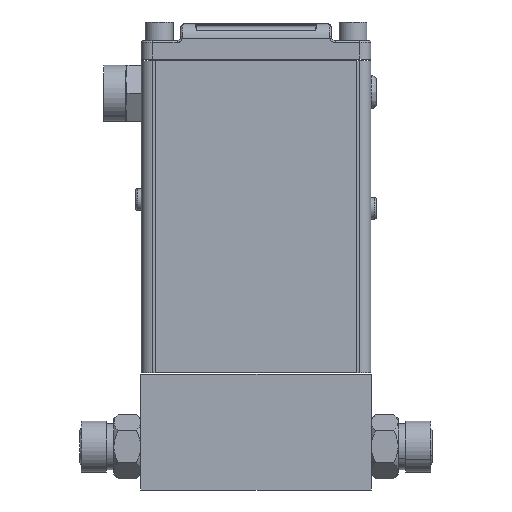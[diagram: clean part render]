
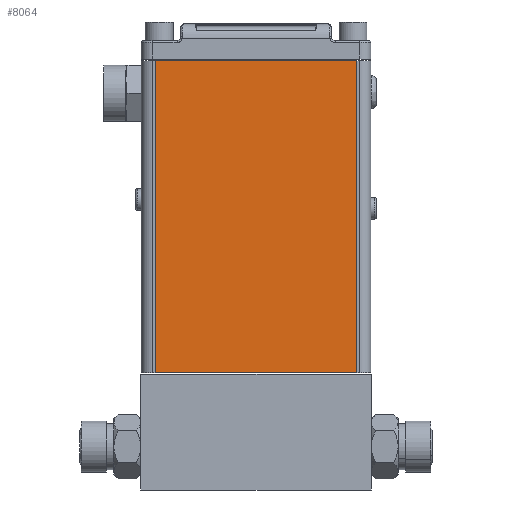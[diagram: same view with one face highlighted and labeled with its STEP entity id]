
A CAD part, front view. The second image highlights one B-rep face of the part: STEP entity #8064.
In plain terms, the highlighted planar face has unit normal (0, -1, 0).
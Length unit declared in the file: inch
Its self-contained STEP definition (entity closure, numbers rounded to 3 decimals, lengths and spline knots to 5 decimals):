
#113 = VERTEX_POINT ( 'NONE', #13328 ) ;
#154 = LINE ( 'NONE', #1653, #15160 ) ;
#642 = LINE ( 'NONE', #13596, #13643 ) ;
#1034 = PLANE ( 'NONE',  #13864 ) ;
#1347 = VECTOR ( 'NONE', #11546, 39.37008 ) ;
#1653 = CARTESIAN_POINT ( 'NONE',  ( 2.97328, -0.24061, 6.28514 ) ) ;
#3364 = EDGE_LOOP ( 'NONE', ( #9428, #15471, #9131, #4278 ) ) ;
#3407 = CARTESIAN_POINT ( 'NONE',  ( -0.41972, -0.24061, 6.28514 ) ) ;
#3513 = DIRECTION ( 'NONE',  ( 0., 1., 0. ) ) ;
#4278 = ORIENTED_EDGE ( 'NONE', *, *, #15330, .F. ) ;
#4745 = DIRECTION ( 'NONE',  ( 0., 0., 1. ) ) ;
#5468 = VERTEX_POINT ( 'NONE', #5855 ) ;
#5855 = CARTESIAN_POINT ( 'NONE',  ( -0.41972, -0.24061, 6.28514 ) ) ;
#6709 = CARTESIAN_POINT ( 'NONE',  ( 2.97328, -0.24061, 6.28514 ) ) ;
#7170 = VERTEX_POINT ( 'NONE', #12314 ) ;
#7501 = EDGE_CURVE ( 'NONE', #8729, #7170, #154, .T. ) ;
#8064 = ADVANCED_FACE ( 'NONE', ( #10768 ), #1034, .F. ) ;
#8482 = LINE ( 'NONE', #8520, #12486 ) ;
#8520 = CARTESIAN_POINT ( 'NONE',  ( -0.41972, -0.24061, 1.03514 ) ) ;
#8729 = VERTEX_POINT ( 'NONE', #6709 ) ;
#9131 = ORIENTED_EDGE ( 'NONE', *, *, #10081, .F. ) ;
#9428 = ORIENTED_EDGE ( 'NONE', *, *, #12219, .F. ) ;
#10081 = EDGE_CURVE ( 'NONE', #5468, #8729, #642, .T. ) ;
#10127 = DIRECTION ( 'NONE',  ( 0., 0., -1. ) ) ;
#10768 = FACE_OUTER_BOUND ( 'NONE', #3364, .T. ) ;
#11546 = DIRECTION ( 'NONE',  ( 0., 0., 1. ) ) ;
#11829 = CARTESIAN_POINT ( 'NONE',  ( -0.41972, -0.24061, 6.28514 ) ) ;
#12139 = DIRECTION ( 'NONE',  ( -1., 0., 0. ) ) ;
#12219 = EDGE_CURVE ( 'NONE', #7170, #113, #8482, .T. ) ;
#12314 = CARTESIAN_POINT ( 'NONE',  ( 2.97328, -0.24061, 1.03514 ) ) ;
#12486 = VECTOR ( 'NONE', #12139, 39.37008 ) ;
#12650 = DIRECTION ( 'NONE',  ( 1., 0., 0. ) ) ;
#13328 = CARTESIAN_POINT ( 'NONE',  ( -0.41972, -0.24061, 1.03514 ) ) ;
#13596 = CARTESIAN_POINT ( 'NONE',  ( -0.41972, -0.24061, 6.28514 ) ) ;
#13643 = VECTOR ( 'NONE', #12650, 39.37008 ) ;
#13864 = AXIS2_PLACEMENT_3D ( 'NONE', #3407, #3513, #4745 ) ;
#13984 = LINE ( 'NONE', #11829, #1347 ) ;
#15160 = VECTOR ( 'NONE', #10127, 39.37008 ) ;
#15330 = EDGE_CURVE ( 'NONE', #113, #5468, #13984, .T. ) ;
#15471 = ORIENTED_EDGE ( 'NONE', *, *, #7501, .F. ) ;
